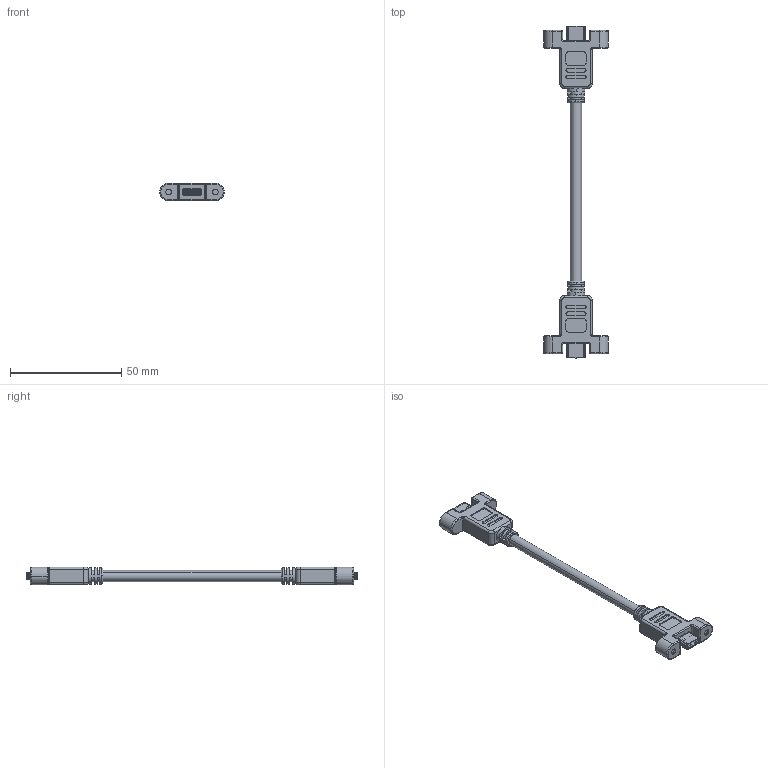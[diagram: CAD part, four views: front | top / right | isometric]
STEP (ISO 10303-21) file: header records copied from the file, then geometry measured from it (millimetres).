
FILE_DESCRIPTION (( 'STEP AP203' ), '1' );
FILE_NAME ('RR-CFPMX2-XXGRNTP_202302.STEP', '2023-02-17T05:30:45', ( '' ), ( '' ), 'SwSTEP 2.0', 'SolidWorks 2019', '' );
FILE_SCHEMA (( 'CONFIG_CONTROL_DESIGN' ));
Products named in the file (1): RR-CFPMX2-XXGRNTP_202302
Bounding box: 29 x 149 x 8 mm (x, y, z)
Surface area: 7015.9 mm2 (no closed solid volume)
Topology: 0 solids, 83 shells, 2574 faces, 6948 edges, 4416 vertices
Faces by surface type: plane 2010, bspline 328, cylinder 176, torus 36, cone 16, sphere 8
Entity records: 88337 total; most frequent: CARTESIAN_POINT 27987, ORIENTED_EDGE 13832, DIRECTION 10052, EDGE_CURVE 6932, LINE 4734, VECTOR 4734, VERTEX_POINT 4416, EDGE_LOOP 2750
